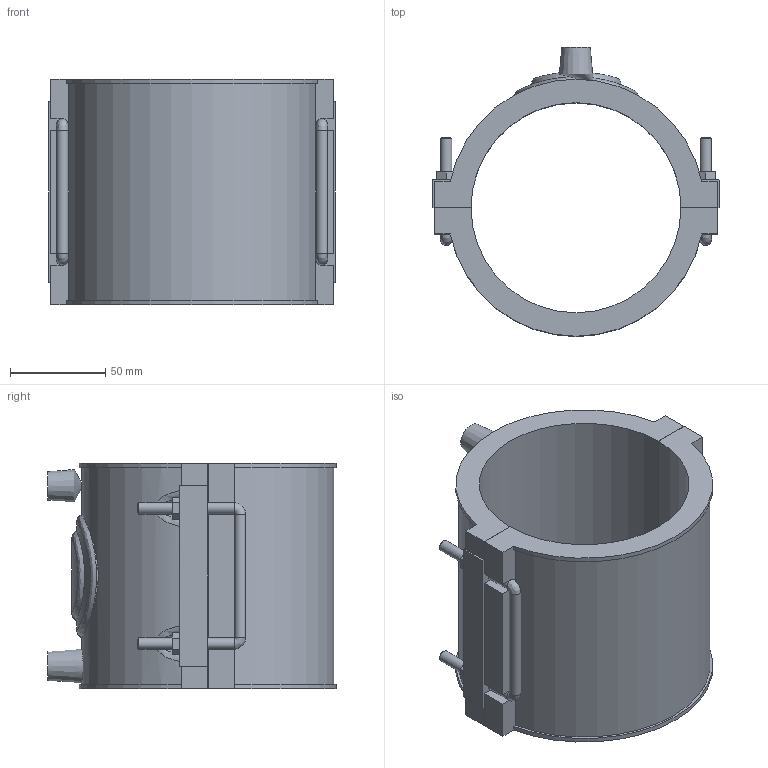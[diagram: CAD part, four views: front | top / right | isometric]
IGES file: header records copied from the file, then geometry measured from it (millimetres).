
Global section: file name: 495204110.ipt; native system: Autodesk Inventor 2015; preprocessor: unknown; author: KIM; date: 20171106.094228; units: millimetre
Bounding box: 150 x 151.32 x 118 mm (x, y, z)
Volume: 578733.8 mm3; surface area: 123737.1 mm2
Topology: 2 solids, 2 shells, 133 faces, 342 edges, 216 vertices
Faces by surface type: plane 84, cylinder 25, bspline 10, revolution 8, cone 6
Full cylindrical faces by diameter (mm): 4 x2, 6 x10
